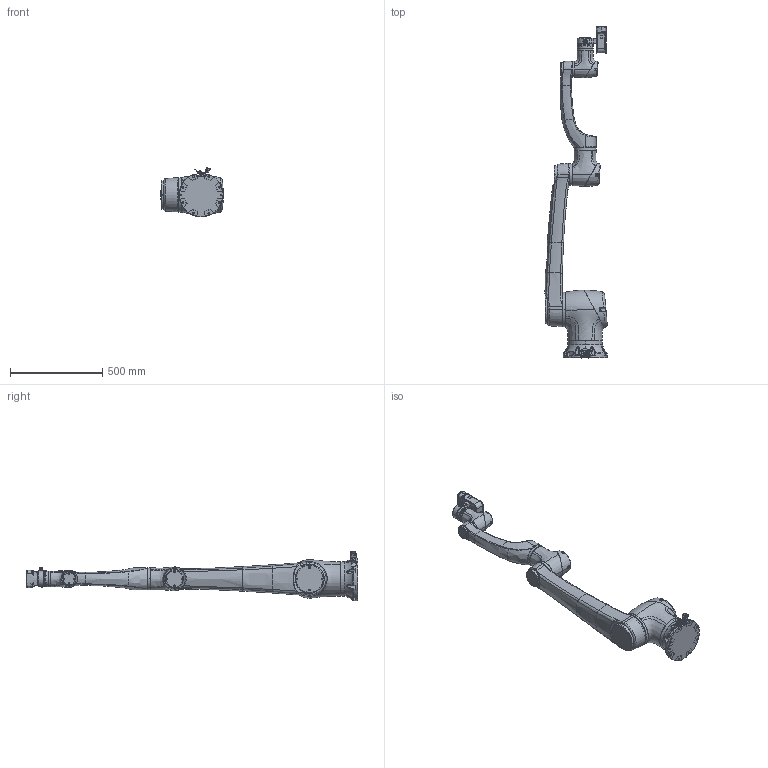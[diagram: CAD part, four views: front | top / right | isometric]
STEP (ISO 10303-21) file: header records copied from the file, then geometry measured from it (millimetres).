
FILE_DESCRIPTION (( 'STEP AP214' ), '1' );
FILE_NAME ('弝橇_E15-Pro 儂迮忒_20240409.STEP', '2024-04-10T00:33:27', ( '' ), ( '' ), 'SwSTEP 2.0', 'SolidWorks 2022', '' );
FILE_SCHEMA (( 'AUTOMOTIVE_DESIGN' ));
Length unit declared in the file: millimetre
Products named in the file (8): 17末端组件_2d视觉_E15_20240409; E15F_底座组件_20240409; 视觉_E15-Pro 机械手_20240409; E15F_下臂组件_20240409; module_40axial_20240409; module_25axial_20220705; module_17axial_20220705; E15F_上臂组件_20240409
Assembly tree (7 placements, depth 2):
  视觉_E15-Pro 机械手_20240409
    E15F_底座组件_20240409
    E15F_下臂组件_20240409
    E15F_上臂组件_20240409
    module_40axial_20240409
    module_25axial_20220705
    module_17axial_20220705
    17末端组件_2d视觉_E15_20240409
Bounding box: 337.37 x 1795.3 x 269.11 mm (x, y, z)
Volume: 30298249 mm3; surface area: 1463392.3 mm2
Topology: 30 solids, 42 shells, 3590 faces, 8944 edges, 5566 vertices
Faces by surface type: plane 1149, bspline 1027, cylinder 900, cone 266, torus 230, sphere 18
Entity records: 396626 total; most frequent: CARTESIAN_POINT 301581, ORIENTED_EDGE 17700, DIRECTION 13355, EDGE_CURVE 8850, VERTEX_POINT 5562, AXIS2_PLACEMENT_3D 5124, EDGE_LOOP 3886, FACE_OUTER_BOUND 3590
